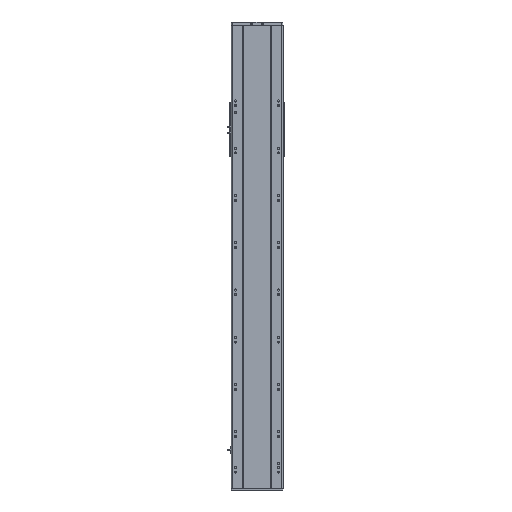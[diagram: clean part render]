
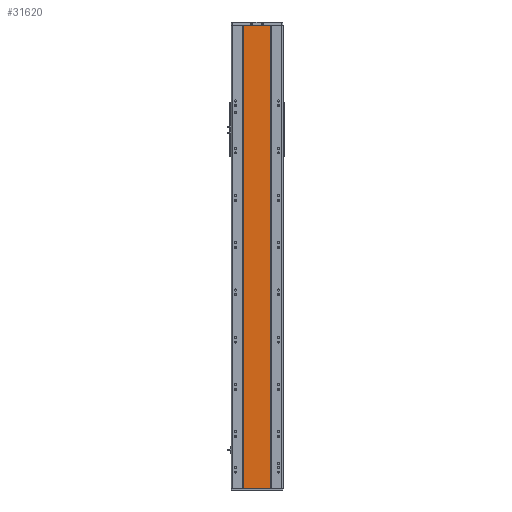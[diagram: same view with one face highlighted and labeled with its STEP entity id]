
A CAD part, front view. The second image highlights one B-rep face of the part: STEP entity #31620.
In plain terms, the highlighted planar face has unit normal (0, -1, 0).
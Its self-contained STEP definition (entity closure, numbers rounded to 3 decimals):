
#641 = ORIENTED_EDGE ( 'NONE', *, *, #11123, .T. ) ;
#1833 = CARTESIAN_POINT ( 'NONE',  ( 59., 1., 980.5 ) ) ;
#2397 = VERTEX_POINT ( 'NONE', #15330 ) ;
#3226 = DIRECTION ( 'NONE',  ( 1., 0., 0. ) ) ;
#3471 = DIRECTION ( 'NONE',  ( 0., 1., 0. ) ) ;
#3651 = LINE ( 'NONE', #1833, #5130 ) ;
#4238 = VERTEX_POINT ( 'NONE', #26186 ) ;
#5130 = VECTOR ( 'NONE', #11529, 1000. ) ;
#5386 = VERTEX_POINT ( 'NONE', #38946 ) ;
#8905 = EDGE_CURVE ( 'NONE', #5386, #33614, #3651, .T. ) ;
#10103 = VECTOR ( 'NONE', #10149, 1000. ) ;
#10149 = DIRECTION ( 'NONE',  ( 0., 0., -1. ) ) ;
#11123 = EDGE_CURVE ( 'NONE', #2397, #33614, #37760, .T. ) ;
#11529 = DIRECTION ( 'NONE',  ( 0., 0., -1. ) ) ;
#11717 = CARTESIAN_POINT ( 'NONE',  ( -59., 1., -980.5 ) ) ;
#12512 = DIRECTION ( 'NONE',  ( -1., 0., 0. ) ) ;
#13528 = AXIS2_PLACEMENT_3D ( 'NONE', #30677, #3471, #12512 ) ;
#14525 = VECTOR ( 'NONE', #3226, 1000. ) ;
#15330 = CARTESIAN_POINT ( 'NONE',  ( -59., 1., -980.5 ) ) ;
#16429 = CARTESIAN_POINT ( 'NONE',  ( -59., 1., 980.5 ) ) ;
#20098 = EDGE_CURVE ( 'NONE', #4238, #5386, #20803, .T. ) ;
#20803 = LINE ( 'NONE', #33640, #14525 ) ;
#21836 = EDGE_CURVE ( 'NONE', #4238, #2397, #34603, .T. ) ;
#21904 = ORIENTED_EDGE ( 'NONE', *, *, #20098, .F. ) ;
#26117 = CARTESIAN_POINT ( 'NONE',  ( 59., 1., -980.5 ) ) ;
#26186 = CARTESIAN_POINT ( 'NONE',  ( -59., 1., 980.5 ) ) ;
#27071 = EDGE_LOOP ( 'NONE', ( #641, #29370, #21904, #27851 ) ) ;
#27851 = ORIENTED_EDGE ( 'NONE', *, *, #21836, .T. ) ;
#27996 = FACE_OUTER_BOUND ( 'NONE', #27071, .T. ) ;
#29370 = ORIENTED_EDGE ( 'NONE', *, *, #8905, .F. ) ;
#30019 = DIRECTION ( 'NONE',  ( 1., 0., 0. ) ) ;
#30677 = CARTESIAN_POINT ( 'NONE',  ( -59., 1., 980.5 ) ) ;
#31620 = ADVANCED_FACE ( 'NONE', ( #27996 ), #33888, .F. ) ;
#33614 = VERTEX_POINT ( 'NONE', #26117 ) ;
#33640 = CARTESIAN_POINT ( 'NONE',  ( -59., 1., 980.5 ) ) ;
#33888 = PLANE ( 'NONE',  #13528 ) ;
#34603 = LINE ( 'NONE', #16429, #10103 ) ;
#36312 = VECTOR ( 'NONE', #30019, 1000. ) ;
#37760 = LINE ( 'NONE', #11717, #36312 ) ;
#38946 = CARTESIAN_POINT ( 'NONE',  ( 59., 1., 980.5 ) ) ;
